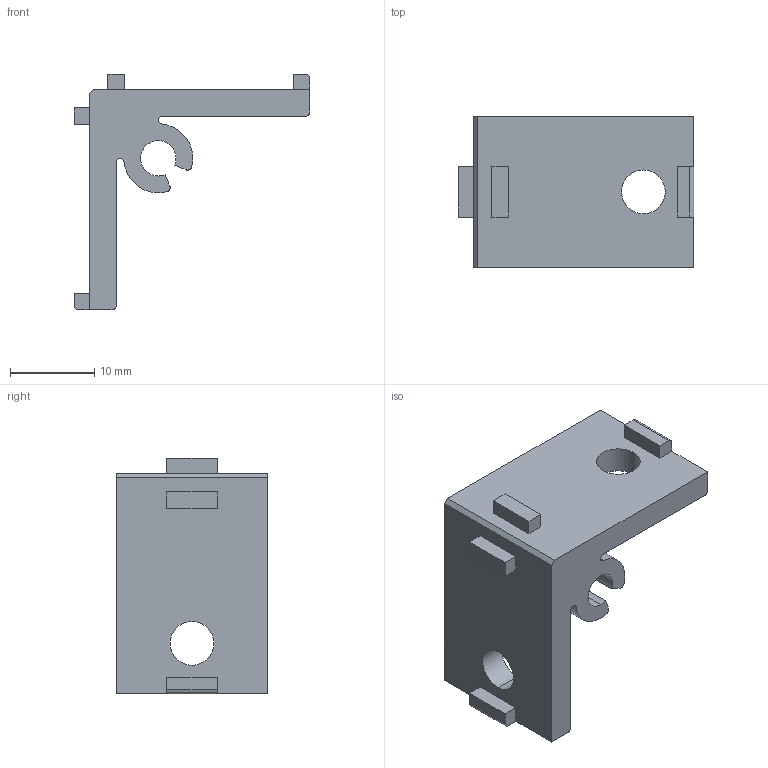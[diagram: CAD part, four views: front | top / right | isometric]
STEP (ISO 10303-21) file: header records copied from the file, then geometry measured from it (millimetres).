
FILE_DESCRIPTION (( 'STEP AP214' ), '1' );
FILE_NAME ('SMBD3-2525.STEP', '2019-11-21T06:21:26', ( '微软用户' ), ( '微软中国' ), 'SwSTEP 2.0', 'SolidWorks 2016', '' );
FILE_SCHEMA (( 'AUTOMOTIVE_DESIGN' ));
Length unit declared in the file: millimetre
Products named in the file (1): SMBD3-2525
Bounding box: 28 x 18 x 28 mm (x, y, z)
Volume: 3606.7 mm3; surface area: 2810.2 mm2
Topology: 1 solids, 1 shells, 48 faces, 132 edges, 88 vertices
Faces by surface type: plane 29, cylinder 19
Entity records: 1576 total; most frequent: CARTESIAN_POINT 269, DIRECTION 268, ORIENTED_EDGE 264, EDGE_CURVE 132, LINE 94, VECTOR 94, VERTEX_POINT 88, AXIS2_PLACEMENT_3D 87
